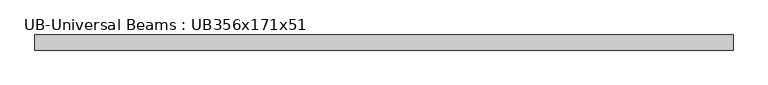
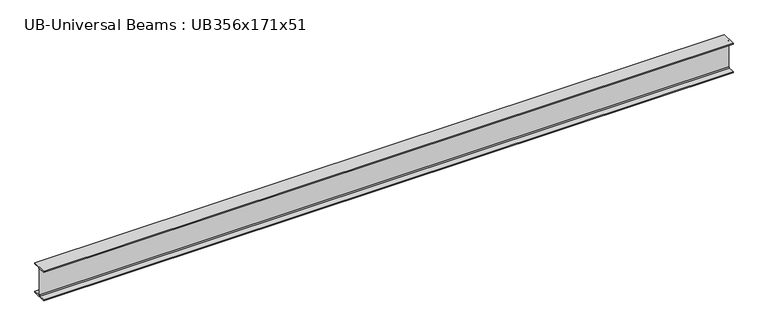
"""IFC4 building model written with IfcOpenShell, lengths in millimetres: beam geometry, UB-Universal Beams : UB356x171x51."""

from ifc_helpers import new_model, si_unit, point, frame, frame_2d, origin, place, context, project, spatial, polyline, circle_curve, trimmed, segment, composite_curve, outline, extrude, source, transform, mapped, element, save


def ub_universal_beams_ub356x171x51_76b2d20b(model_context):
    return source(origin(), model_context, "Body", "SweptSolid", [
        extrude(outline(composite_curve([segment(polyline([(85.75, -166.0), (85.75, -177.5), (-85.75, -177.5), (-85.75, -166.0), (-13.9, -166.0)]), True, "CONTINUOUS"), segment(trimmed(circle_curve(frame_2d((-13.9, -155.8)), 10.2), [point((-13.9, -166.0))], [point((-3.7, -155.8))], True, "CARTESIAN"), True, "CONTINUOUS"), segment(polyline([(-3.7, -155.8), (-3.7, 155.8)]), True, "CONTINUOUS"), segment(trimmed(circle_curve(frame_2d((-13.9, 155.8)), 10.2), [point((-3.7, 155.8))], [point((-13.9, 166.0))], True, "CARTESIAN"), True, "CONTINUOUS"), segment(polyline([(-13.9, 166.0), (-85.75, 166.0), (-85.75, 177.5), (85.75, 177.5), (85.75, 166.0), (13.9, 166.0)]), True, "CONTINUOUS"), segment(trimmed(circle_curve(frame_2d((13.9, 155.8)), 10.2), [point((13.9, 166.0))], [point((3.7, 155.8))], True, "CARTESIAN"), True, "CONTINUOUS"), segment(polyline([(3.7, 155.8), (3.7, -155.8)]), True, "CONTINUOUS"), segment(trimmed(circle_curve(frame_2d((13.9, -155.8)), 10.2), [point((3.7, -155.8))], [point((13.9, -166.0))], True, "CARTESIAN"), True, "CONTINUOUS"), segment(polyline([(13.9, -166.0), (85.75, -166.0)]), True, "CONTINUOUS")], self_intersect=False)), frame((-3954.1, 0.0, 0.0), z_axis=(1.0, 0.0, 0.0), x_axis=(0.0, 1.0, 0.0)), (0.0, 0.0, 1.0), 7908.2),
    ])


if __name__ == "__main__":
    model = new_model("IFC4")
    model_context = context("Model", 3, world=origin())
    ifc_project = project(units=[si_unit("LENGTHUNIT", "METRE", prefix="MILLI")], contexts=[model_context])
    site = spatial("IfcSite", under=ifc_project)
    building = spatial("IfcBuilding", under=site)
    placement = place(None, origin())
    ub_universal_beams_ub356x171x51_shape = ub_universal_beams_ub356x171x51_76b2d20b(model_context)
    element("IfcBeam", 1, ObjectType="UB-Universal Beams : UB356x171x51", at=placement, inside=building, context=model_context, shape_type="MappedRepresentation", body=[
        mapped(ub_universal_beams_ub356x171x51_shape, transform((0.0, 0.0, 0.0), x_axis=(1.0, 0.0, 0.0), y_axis=(0.0, 1.0, 0.0), z_axis=(0.0, 0.0, 1.0))),
    ])
    save(model, "model.ifc")
